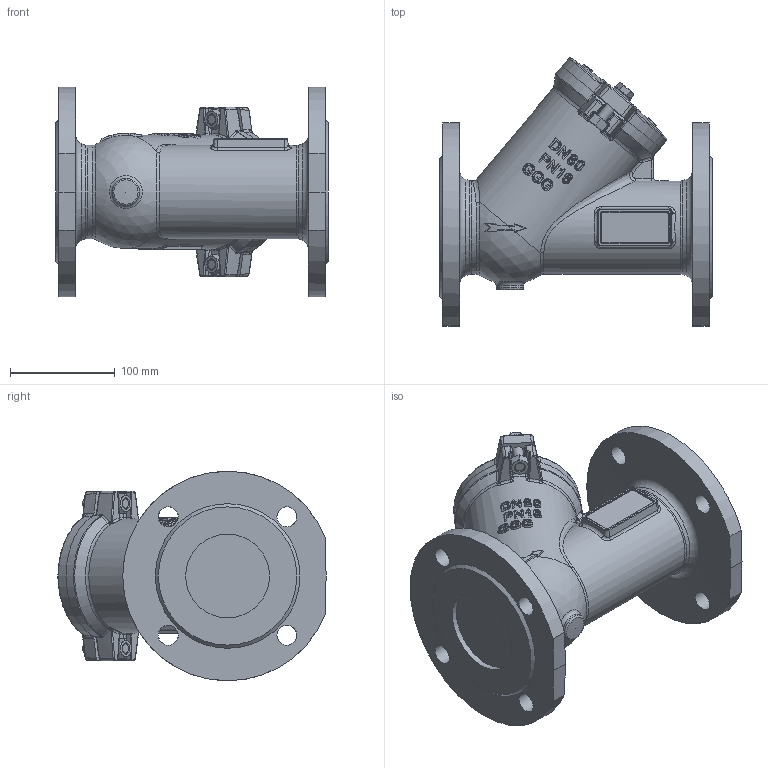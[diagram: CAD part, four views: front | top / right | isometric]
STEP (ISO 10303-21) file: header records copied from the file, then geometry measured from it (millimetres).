
FILE_DESCRIPTION (( 'STEP AP214' ), '1' );
FILE_NAME ('DN80.STEP', '2026-09-15T10:48:43', ( '' ), ( '' ), 'SwSTEP 2.0', 'SolidWorks 2024', '' );
FILE_SCHEMA (( 'AUTOMOTIVE_DESIGN' ));
Length unit declared in the file: millimetre
Products named in the file (1): DN80
Bounding box: 260 x 255.94 x 200 mm (x, y, z)
Volume: 3698273.4 mm3; surface area: 267503.8 mm2
Topology: 3 solids, 7 shells, 975 faces, 2505 edges, 1590 vertices
Faces by surface type: bspline 593, cylinder 149, plane 123, cone 52, sphere 36, torus 22
Full cylindrical faces by diameter (mm): 10 x2, 11 x2, 19 x8, 20 x2, 26 x1, 80 x2, 89 x2, 122 x1
Entity records: 60187 total; most frequent: CARTESIAN_POINT 32549, ORIENTED_EDGE 4848, EDGE_CURVE 2424, DIRECTION 1765, B_SPLINE_CURVE_WITH_KNOTS 1720, VERTEX_POINT 1555, EDGE_LOOP 1085, FACE_OUTER_BOUND 1000
